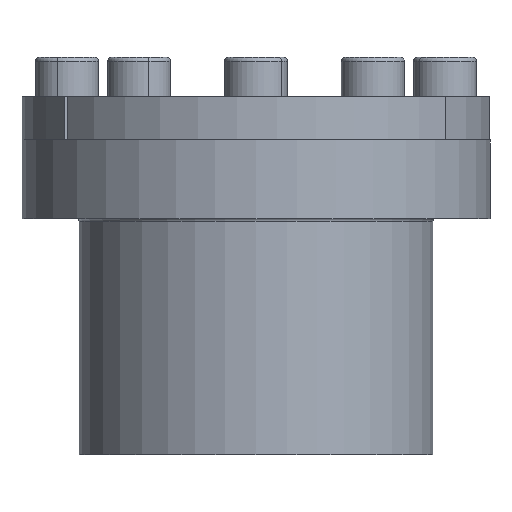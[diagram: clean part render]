
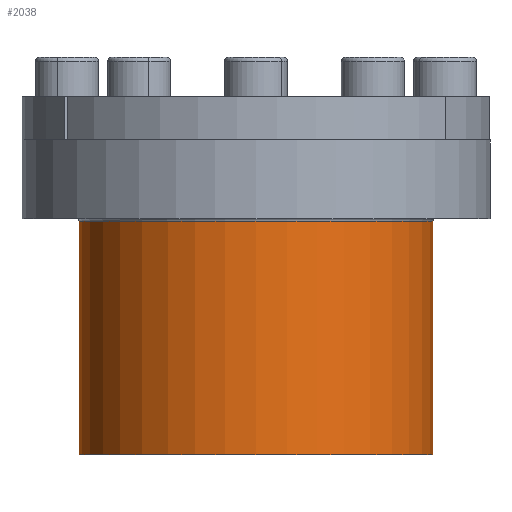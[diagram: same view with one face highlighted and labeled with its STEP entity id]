
A CAD part, front view. The second image highlights one B-rep face of the part: STEP entity #2038.
In plain terms, the highlighted cylindrical face has radius 45 mm (diameter 90 mm), a partial arc.
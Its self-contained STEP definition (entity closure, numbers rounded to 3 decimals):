
#380 = VECTOR ( 'NONE', #2275, 1000. ) ;
#911 = LINE ( 'NONE', #12927, #6999 ) ;
#1161 = AXIS2_PLACEMENT_3D ( 'NONE', #12183, #3741, #12283 ) ;
#1405 = CARTESIAN_POINT ( 'NONE',  ( 0., 0., -13.6 ) ) ;
#2038 = ADVANCED_FACE ( 'NONE', ( #7535 ), #2788, .T. ) ;
#2275 = DIRECTION ( 'NONE',  ( 0., 0., -1. ) ) ;
#2637 = ORIENTED_EDGE ( 'NONE', *, *, #5782, .T. ) ;
#2657 = DIRECTION ( 'NONE',  ( -1., 0., 0. ) ) ;
#2759 = ORIENTED_EDGE ( 'NONE', *, *, #13768, .T. ) ;
#2788 = CYLINDRICAL_SURFACE ( 'NONE', #1161, 45. ) ;
#3147 = DIRECTION ( 'NONE',  ( 0., 0., -1. ) ) ;
#3405 = AXIS2_PLACEMENT_3D ( 'NONE', #1405, #9898, #2657 ) ;
#3741 = DIRECTION ( 'NONE',  ( 0., 0., -1. ) ) ;
#5651 = EDGE_LOOP ( 'NONE', ( #12547, #2759, #2637, #10739 ) ) ;
#5782 = EDGE_CURVE ( 'NONE', #9261, #14203, #9709, .T. ) ;
#6834 = CARTESIAN_POINT ( 'NONE',  ( -45., 0., -73. ) ) ;
#6999 = VECTOR ( 'NONE', #14138, 1000. ) ;
#7535 = FACE_OUTER_BOUND ( 'NONE', #5651, .T. ) ;
#7864 = CIRCLE ( 'NONE', #9765, 45. ) ;
#8514 = VERTEX_POINT ( 'NONE', #10964 ) ;
#9261 = VERTEX_POINT ( 'NONE', #13346 ) ;
#9544 = CARTESIAN_POINT ( 'NONE',  ( -45., 0., -13. ) ) ;
#9709 = LINE ( 'NONE', #9544, #380 ) ;
#9765 = AXIS2_PLACEMENT_3D ( 'NONE', #10394, #3147, #11617 ) ;
#9864 = CIRCLE ( 'NONE', #3405, 45. ) ;
#9898 = DIRECTION ( 'NONE',  ( 0., 0., -1. ) ) ;
#10394 = CARTESIAN_POINT ( 'NONE',  ( 0., 0., -73. ) ) ;
#10739 = ORIENTED_EDGE ( 'NONE', *, *, #13413, .F. ) ;
#10951 = CARTESIAN_POINT ( 'NONE',  ( 45., 0., -13.6 ) ) ;
#10964 = CARTESIAN_POINT ( 'NONE',  ( 45., 0., -73. ) ) ;
#11617 = DIRECTION ( 'NONE',  ( -1., 0., 0. ) ) ;
#12183 = CARTESIAN_POINT ( 'NONE',  ( 0., 0., -13. ) ) ;
#12283 = DIRECTION ( 'NONE',  ( -1., 0., 0. ) ) ;
#12326 = VERTEX_POINT ( 'NONE', #10951 ) ;
#12547 = ORIENTED_EDGE ( 'NONE', *, *, #12800, .F. ) ;
#12800 = EDGE_CURVE ( 'NONE', #12326, #8514, #911, .T. ) ;
#12927 = CARTESIAN_POINT ( 'NONE',  ( 45., 0., -13. ) ) ;
#13346 = CARTESIAN_POINT ( 'NONE',  ( -45., 0., -13.6 ) ) ;
#13413 = EDGE_CURVE ( 'NONE', #8514, #14203, #7864, .T. ) ;
#13768 = EDGE_CURVE ( 'NONE', #12326, #9261, #9864, .T. ) ;
#14138 = DIRECTION ( 'NONE',  ( 0., 0., -1. ) ) ;
#14203 = VERTEX_POINT ( 'NONE', #6834 ) ;
